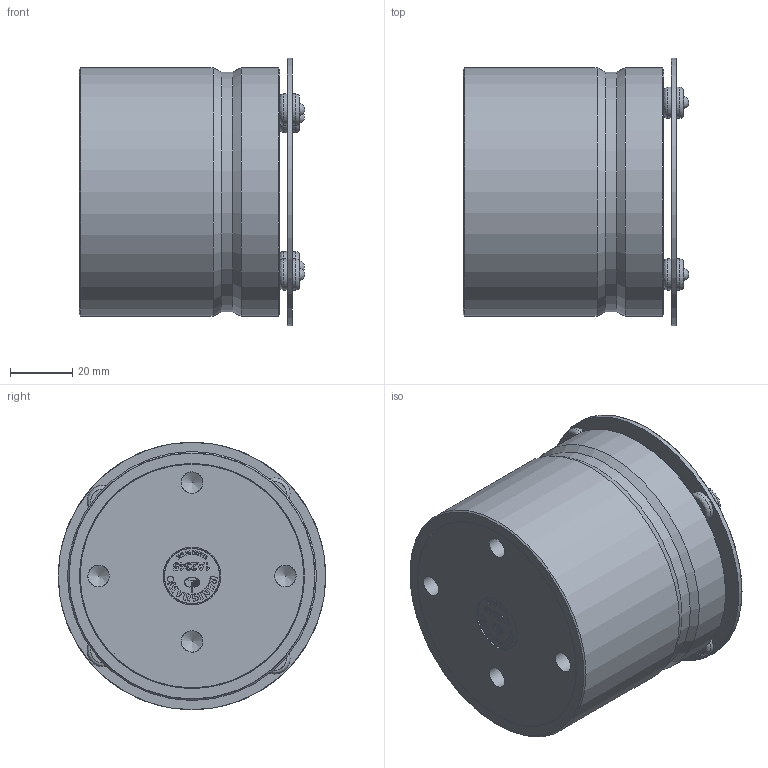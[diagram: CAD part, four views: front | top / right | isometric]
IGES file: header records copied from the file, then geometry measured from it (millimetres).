
Global section: file name: Y:\_LCPD Drawings\13.1 Lightweight Models\8003\LA-8003-2061 LONG RANGE  RETROREFLECTOR\LA-8003-2061.igs; native system: NX V7.5; preprocessor: SIEMENS PLM Software NX 7.5; date: 20120514.105035; units: millimetre
Bounding box: 72.5 x 86 x 86 mm (x, y, z)
Surface area: 41321.8 mm2 (no closed solid volume)
Topology: 0 solids, 0 shells, 525 faces, 3198 edges, 3136 vertices
Faces by surface type: bspline 462, revolution 63
